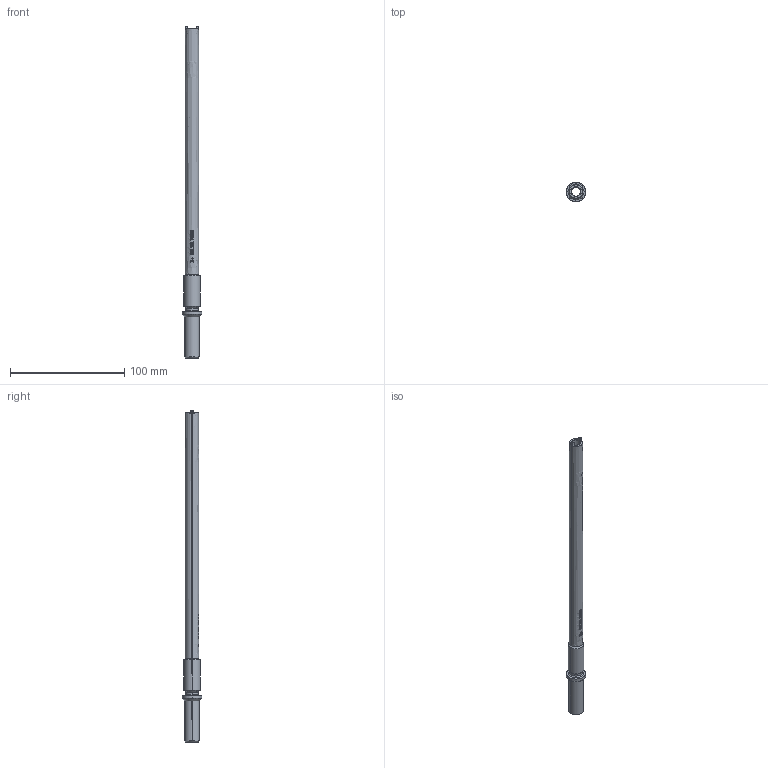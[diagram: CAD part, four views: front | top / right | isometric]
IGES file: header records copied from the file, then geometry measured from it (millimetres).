
Start section: SolidWorks IGES file using analytic representation for surfaces
Global section: file name: C:\Users\e.bondaruk\Desktop\縺 嚦闉鍙酀50.30.7030-10.01.IGS; native system: SolidWorks 2022; preprocessor: SolidWorks 2022; author: e.bondaruk; date: 230210.125353; units: millimetre
Bounding box: 17 x 17 x 290 mm (x, y, z)
Surface area: 18713.4 mm2 (no closed solid volume)
Topology: 0 solids, 0 shells, 276 faces, 3144 edges, 3144 vertices
Faces by surface type: bspline 224, revolution 52
